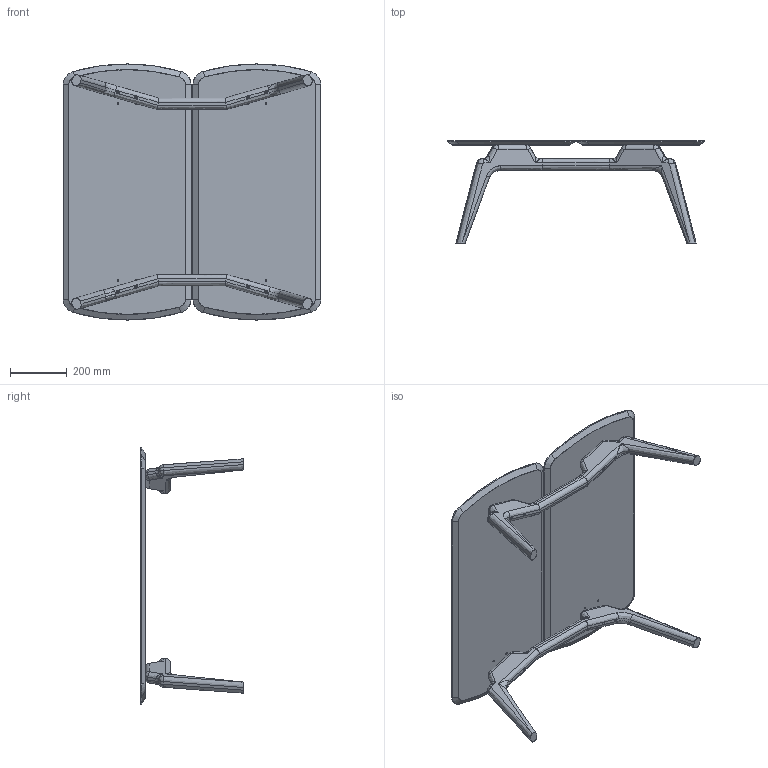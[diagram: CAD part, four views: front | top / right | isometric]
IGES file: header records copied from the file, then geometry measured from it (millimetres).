
Start section: SolidWorks IGES file using analytic representation for surfaces
Global section: file name: N:\OT\OFICINA TECNICA\PROYECTOS\EN DESARROLLO\MESA_MIXTA\3D SOLIDWORKS\MESA_MIXTA_DUO_L.IGS; native system: SolidWorks 2016; preprocessor: SolidWorks 2016; author: Usuario; date: 190802.115551; units: millimetre
Bounding box: 906 x 360 x 900 mm (x, y, z)
Surface area: 2047570.5 mm2 (no closed solid volume)
Topology: 0 solids, 0 shells, 336 faces, 4880 edges, 4860 vertices
Faces by surface type: revolution 184, bspline 152
